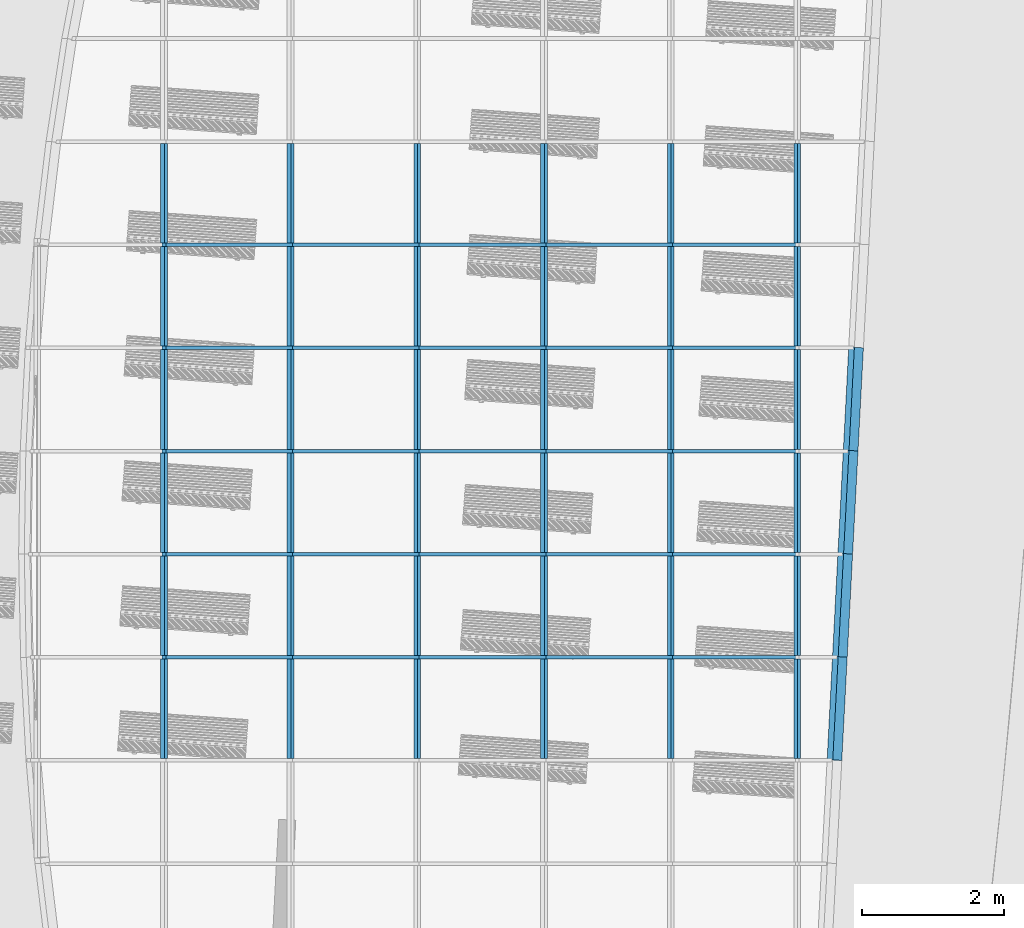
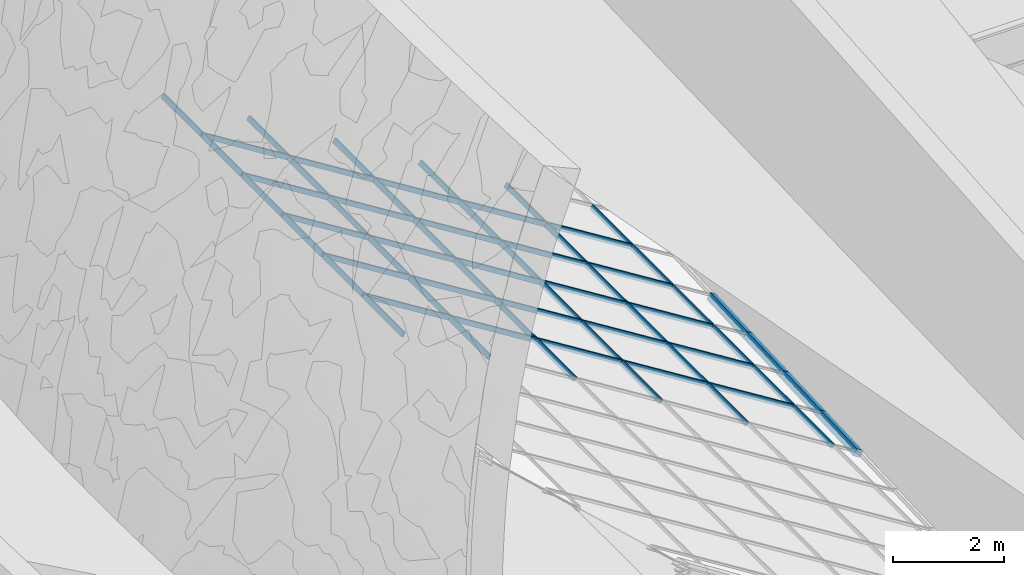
# One storey, part 13 of 82: 65 members, 1 element without a shape of its own.
"""IFC2X3 building model written with IfcOpenShell, lengths in millimetres."""

import ifcopenshell
import ifcopenshell.guid

model = None  # the IFC model being written
_history = None  # IfcOwnerHistory: only IFC2X3 demands one
_inside = {}  # id of a spatial element -> (the spatial element, [elements in it])
_under = {}  # id of a project, library or spatial element -> (it, [spatial elements below it])
_declared = {}  # id of a project -> (the project, [libraries it declares])
_typed = {}  # id of a type object -> (the type object, [elements of that type])
_made_of = {}  # id of a material, layer set ... -> (it, [elements and type objects made of it])


def new_model(schema):
    """Start an empty IFC model of exactly this schema.

    Asked for "IFC4X3", IfcOpenShell would pick the latest addendum, in which some entities
    have other attributes; the version numbers below select the first issue.
    IFC2X3 requires an IfcOwnerHistory on every rooted entity: one is made here for all.
    """
    global model, _history
    if schema == "IFC4X3":
        model = ifcopenshell.file(schema_version=(4, 3, 0, 0))
    else:
        model = ifcopenshell.file(schema=schema)
    _inside.clear()
    _under.clear()
    _declared.clear()
    _typed.clear()
    _made_of.clear()
    _history = None
    if model.schema == "IFC2X3":
        org = make("IfcOrganization", Name="unknown")
        user = make(
            "IfcPersonAndOrganization",
            ThePerson=make("IfcPerson", FamilyName="unknown"),
            TheOrganization=org,
        )
        app = make(
            "IfcApplication",
            ApplicationDeveloper=org,
            Version="unknown",
            ApplicationFullName="unknown",
            ApplicationIdentifier="unknown",
        )
        _history = make(
            "IfcOwnerHistory",
            OwningUser=user,
            OwningApplication=app,
            ChangeAction="ADDED",
            CreationDate=0,
        )
    return model


def make(cls, **values):
    """One entity of the class cls with the attributes given. An attribute that is None is left unset."""
    return model.create_entity(
        cls, **{name: value for name, value in values.items() if value is not None}
    )


def entity(cls, *values):
    """Any entity or typed value of the class cls, its attributes in the order of the schema. None: left unset."""
    e = model.create_entity(cls)
    for i, value in enumerate(values):
        if value is not None:
            e[i] = value
    return e


def rooted(cls, **values):
    """An entity with a GlobalId (a new one), such as an element, a storey or a relation."""
    return make(cls, GlobalId=ifcopenshell.guid.new(), OwnerHistory=_history, **values)


def si_unit(unit_type, name, prefix=None):
    """IfcSIUnit, for example si_unit("LENGTHUNIT", "METRE", prefix="MILLI")."""
    return make("IfcSIUnit", UnitType=unit_type, Prefix=prefix, Name=name)


def converted_unit(unit_type, name, factor, base, dimensions=None, offset=None):
    """IfcConversionBasedUnit, such as the inch: factor (a typed value) times the base unit."""
    return make(
        "IfcConversionBasedUnit"
        if offset is None
        else "IfcConversionBasedUnitWithOffset",
        ConversionOffset=offset,
        Dimensions=None
        if dimensions is None
        else entity("IfcDimensionalExponents", *dimensions),
        UnitType=unit_type,
        Name=name,
        ConversionFactor=make(
            "IfcMeasureWithUnit", ValueComponent=factor, UnitComponent=base
        ),
    )


def derived_unit(unit_type, elements):
    """IfcDerivedUnit: a product of units, each with its exponent."""
    return make(
        "IfcDerivedUnit",
        Elements=[
            make("IfcDerivedUnitElement", Unit=unit, Exponent=power)
            for unit, power in elements
        ],
        UnitType=unit_type,
    )


def assignment(units):
    """IfcUnitAssignment: the units of a project."""
    return None if units is None else make("IfcUnitAssignment", Units=units)


def point(xyz):
    """IfcCartesianPoint."""
    return None if xyz is None else make("IfcCartesianPoint", Coordinates=xyz)


def direction(xyz):
    """IfcDirection."""
    return None if xyz is None else make("IfcDirection", DirectionRatios=xyz)


def frame(location, z_axis=None, x_axis=None):
    """IfcAxis2Placement3D, a coordinate frame: its origin and axes. An axis left out is left unset."""
    return make(
        "IfcAxis2Placement3D",
        Location=point(location),
        Axis=direction(z_axis),
        RefDirection=direction(x_axis),
    )


def frame_2d(location, x_axis=None):
    """IfcAxis2Placement2D, a coordinate frame in the plane: its origin and x axis."""
    return make(
        "IfcAxis2Placement2D", Location=point(location), RefDirection=direction(x_axis)
    )


def origin():
    """The frame at (0, 0, 0) with its axes left unset."""
    return frame((0.0, 0.0, 0.0))


def origin_2d_with_axis():
    """The frame at (0, 0) in the plane with the x axis (1, 0) written out."""
    return frame_2d((0.0, 0.0), x_axis=(1.0, 0.0))


def place(relative_to, where):
    """IfcLocalPlacement: puts the frame where relative to a parent placement (None: the world)."""
    return make(
        "IfcLocalPlacement", PlacementRelTo=relative_to, RelativePlacement=where
    )


def context(
    kind, dimensions, precision=None, world=None, true_north=None, identifier=None
):
    """IfcGeometricRepresentationContext, for example the 3D "Model" context."""
    return make(
        "IfcGeometricRepresentationContext",
        ContextIdentifier=identifier,
        ContextType=kind,
        CoordinateSpaceDimension=dimensions,
        Precision=precision,
        WorldCoordinateSystem=world,
        TrueNorth=true_north,
    )


def subcontext(parent, identifier, kind, view, scale=None):
    """IfcGeometricRepresentationSubContext, for example "Body" below "Model"."""
    return make(
        "IfcGeometricRepresentationSubContext",
        ContextIdentifier=identifier,
        ContextType=kind,
        ParentContext=parent,
        TargetScale=scale,
        TargetView=view,
    )


def project(units=None, contexts=None):
    """IfcProject with its units and contexts."""
    return rooted(
        "IfcProject",
        Name="project",
        RepresentationContexts=contexts,
        UnitsInContext=assignment(units),
    )


def spatial(cls, under=None, at=None, **own):
    """A site, building, storey or space (cls), placed at a placement, below another one or the project."""
    s = rooted(cls, ObjectPlacement=at, **own)
    if under is not None:
        _under.setdefault(under.id(), (under, []))[1].append(s)
    return s


def profile(cls, at=None, kind="AREA", **sizes):
    """A parametric profile (cls). Its sizes go by their IFC names, for example OverallWidth=200.0."""
    return make(cls, ProfileType=kind, Position=at, **sizes)


def rectangle(**sizes):
    """IfcRectangleProfileDef."""
    return profile("IfcRectangleProfileDef", **sizes)


def extrude(swept, where, along, depth):
    """IfcExtrudedAreaSolid: the profile swept, set in the frame where, extruded along a direction by depth."""
    return make(
        "IfcExtrudedAreaSolid",
        SweptArea=swept,
        Position=where,
        ExtrudedDirection=direction(along),
        Depth=depth,
    )


def shape(context_of_items, identifier, shape_type, items):
    """IfcShapeRepresentation: the items that make up one representation, for example the "Body"."""
    return make(
        "IfcShapeRepresentation",
        ContextOfItems=context_of_items,
        RepresentationIdentifier=identifier,
        RepresentationType=shape_type,
        Items=items,
    )


def source(mapping_origin, context_of_items, identifier, shape_type, items):
    """IfcRepresentationMap: a shape defined once, which mapped items show again and again."""
    return make(
        "IfcRepresentationMap",
        MappingOrigin=mapping_origin,
        MappedRepresentation=shape(context_of_items, identifier, shape_type, items),
    )


def transform(
    local_origin,
    x_axis=None,
    y_axis=None,
    z_axis=None,
    scale=None,
    scale2=None,
    scale3=None,
    uniform=True,
):
    """IfcCartesianTransformationOperator3D, or its non-uniform kind. x_axis, y_axis, z_axis: its Axis1, 2, 3."""
    if uniform:
        return make(
            "IfcCartesianTransformationOperator3D",
            Axis1=direction(x_axis),
            Axis2=direction(y_axis),
            LocalOrigin=point(local_origin),
            Scale=scale,
            Axis3=direction(z_axis),
        )
    return make(
        "IfcCartesianTransformationOperator3DnonUniform",
        Axis1=direction(x_axis),
        Axis2=direction(y_axis),
        LocalOrigin=point(local_origin),
        Scale=scale,
        Axis3=direction(z_axis),
        Scale2=scale2,
        Scale3=scale3,
    )


def mapped(mapping_source, mapping_target):
    """IfcMappedItem: shows the shape of a source again, moved by a transform."""
    return make(
        "IfcMappedItem", MappingSource=mapping_source, MappingTarget=mapping_target
    )


def material(Name=None, Category=None):
    """IfcMaterial."""
    return make("IfcMaterial", Name=Name, Category=Category)


def made_of(thing, what):
    """Note that an element or type object is made of a material, layer set ...; save() writes the relation."""
    if what is not None:
        _made_of.setdefault(what.id(), (what, []))[1].append(thing)
    return thing


def type_object(cls, material=None, **own):
    """A type object (cls), such as IfcWallType, which elements share."""
    return made_of(rooted(cls, **own), material)


def type_shapes(of_type, sources):
    """Give a type object the sources (RepresentationMaps) that its elements show as mapped items."""
    of_type.RepresentationMaps = sources


def element(
    cls,
    number,
    at=None,
    inside=None,
    cuts=None,
    type_object=None,
    material=None,
    context=None,
    identifier="Body",
    shape_type=None,
    held_by="IfcProductDefinitionShape",
    body=None,
    shapes=None,
    **own,
):
    """One element of the class cls, such as IfcWall. Its Tag is "e" and its number.

    at: its placement. inside: the storey or other place that contains it. cuts: it is an
    opening in that element (IfcRelVoidsElement). A single representation is given by context,
    identifier, shape_type and body (its items); several are given by shapes. held_by: the class
    of the entity that holds the representations. save() writes the other relations.
    """
    e = rooted(cls, Tag="e%d" % number, ObjectPlacement=at, **own)
    if body is not None:
        shapes = [shape(context, identifier, shape_type, body)]
    if shapes is not None:
        e.Representation = make(held_by, Representations=shapes)
    if inside is not None:
        _inside.setdefault(inside.id(), (inside, []))[1].append(e)
    if cuts is not None:
        rooted(
            "IfcRelVoidsElement", RelatingBuildingElement=cuts, RelatedOpeningElement=e
        )
    if type_object is not None:
        _typed.setdefault(type_object.id(), (type_object, []))[1].append(e)
    return made_of(e, material)


def aggregate(whole, parts):
    """IfcRelAggregates: a whole, such as a stair, and the parts it consists of."""
    return rooted("IfcRelAggregates", RelatingObject=whole, RelatedObjects=parts)


def save(model, path):
    """Write the relations noted so far, then the file.

    IfcRelAggregates (storeys below a building ...), IfcRelContainedInSpatialStructure (elements
    in a storey), IfcRelDefinesByType, IfcRelAssociatesMaterial and IfcRelDeclares: one each for
    every whole, place, type object, material and project.
    """
    for whole, parts in _under.values():
        aggregate(whole, parts)
    for where, things in _inside.values():
        rooted(
            "IfcRelContainedInSpatialStructure",
            RelatedElements=things,
            RelatingStructure=where,
        )
    for kind, things in _typed.values():
        rooted("IfcRelDefinesByType", RelatedObjects=things, RelatingType=kind)
    for what, things in _made_of.values():
        rooted("IfcRelAssociatesMaterial", RelatedObjects=things, RelatingMaterial=what)
    for by, libraries in _declared.values():
        rooted("IfcRelDeclares", RelatingContext=by, RelatedDefinitions=libraries)
    model.write(path)


model = new_model("IFC2X3")

# Units and contexts
model_context = context("Model", 3, precision=0.01, world=origin(), true_north=direction((6.12303176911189e-17, 1.0)))
body_context = subcontext(model_context, "Body", "Model", "MODEL_VIEW")
ifc_project = project(units=[si_unit("LENGTHUNIT", "METRE", prefix="MILLI"), si_unit("AREAUNIT", "SQUARE_METRE"), si_unit("VOLUMEUNIT", "CUBIC_METRE"), converted_unit("PLANEANGLEUNIT", "DEGREE", entity("IfcRatioMeasure", 0.0174532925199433), si_unit("PLANEANGLEUNIT", "RADIAN"), dimensions=[0, 0, 0, 0, 0, 0, 0]), si_unit("MASSUNIT", "GRAM", prefix="KILO"), derived_unit("MASSDENSITYUNIT", [(si_unit("MASSUNIT", "GRAM", prefix="KILO"), 1), (si_unit("LENGTHUNIT", "METRE"), -3)]), si_unit("TIMEUNIT", "SECOND"), si_unit("FREQUENCYUNIT", "HERTZ"), si_unit("THERMODYNAMICTEMPERATUREUNIT", "DEGREE_CELSIUS"), derived_unit("THERMALTRANSMITTANCEUNIT", [(si_unit("MASSUNIT", "GRAM", prefix="KILO"), 1), (si_unit("THERMODYNAMICTEMPERATUREUNIT", "KELVIN"), -1), (si_unit("TIMEUNIT", "SECOND"), -3)]), derived_unit("VOLUMETRICFLOWRATEUNIT", [(si_unit("LENGTHUNIT", "METRE"), 3), (si_unit("TIMEUNIT", "SECOND"), -1)]), si_unit("ELECTRICCURRENTUNIT", "AMPERE"), si_unit("ELECTRICVOLTAGEUNIT", "VOLT"), si_unit("POWERUNIT", "WATT"), si_unit("FORCEUNIT", "NEWTON", prefix="KILO"), si_unit("ILLUMINANCEUNIT", "LUX"), si_unit("LUMINOUSFLUXUNIT", "LUMEN"), si_unit("LUMINOUSINTENSITYUNIT", "CANDELA"), derived_unit("USERDEFINED", [(si_unit("MASSUNIT", "GRAM", prefix="KILO"), -1), (si_unit("LENGTHUNIT", "METRE"), -2), (si_unit("TIMEUNIT", "SECOND"), 3), (si_unit("LUMINOUSFLUXUNIT", "LUMEN"), 1)]), derived_unit("LINEARVELOCITYUNIT", [(si_unit("LENGTHUNIT", "METRE"), 1), (si_unit("TIMEUNIT", "SECOND"), -1)]), si_unit("PRESSUREUNIT", "PASCAL"), derived_unit("USERDEFINED", [(si_unit("LENGTHUNIT", "METRE"), -2), (si_unit("MASSUNIT", "GRAM", prefix="KILO"), 1), (si_unit("TIMEUNIT", "SECOND"), -2)])], contexts=[model_context])

# Site, building, storey
site_placement = place(None, origin())
site = spatial("IfcSite", under=ifc_project, at=site_placement, Name="表面", CompositionType="ELEMENT")
building_placement = place(site_placement, origin())
building = spatial("IfcBuilding", under=site, at=building_placement, CompositionType="ELEMENT")
storey_placement = place(building_placement, origin())
storey = spatial("IfcBuildingStorey", under=building, at=storey_placement, Name="1F", CompositionType="ELEMENT", Elevation=0.0)

# Curtain wall, members
curtain_wall_type = type_object("IfcCurtainWallType", Name="幕墙系统:1450 x 2100mm", PredefinedType="NOTDEFINED")
curtain_wall_placement = place(storey_placement, origin())
curtain_wall = element("IfcCurtainWall", 1, at=curtain_wall_placement, inside=storey, type_object=curtain_wall_type, Name="幕墙系统:1450 x 2100mm", ObjectType="幕墙系统:1450 x 2100mm")
ifc_material_1 = material(Name="金属 - 铝")
member_type_1 = type_object("IfcMemberType", Name="50 x 100mm", PredefinedType="MEMBER")
shared_shape_1 = source(origin(), body_context, "Body", "SweptSolid", [
    extrude(rectangle(XDim=100.0, YDim=50.0, at=origin_2d_with_axis()), frame((0.0, 0.0, -1400.0), z_axis=(0.0, 0.0, 1.0), x_axis=(0.0, -1.0, 0.0)), (0.0, 0.0, 1.0), 1400.0),
])
type_shapes(member_type_1, [shared_shape_1])
placement = place(building_placement, frame((0.0, 0.0, 9000.0)))
member_1_placement = place(placement, frame((-19919.0996129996, -11963.9031535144, 3143.03179701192), z_axis=(0.0, 1.0, 0.0), x_axis=(-0.848048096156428, 0.0, 0.529919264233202)))
member_1 = element("IfcMember", 2, at=member_1_placement, type_object=member_type_1, material=ifc_material_1, Name="矩形竖梃:50 x 100mm", ObjectType="50 x 100mm", context=body_context, shape_type="MappedRepresentation", body=[
    mapped(shared_shape_1, transform((0.0, 0.0, 0.0), scale=1.0)),
])
member_2_placement = place(placement, frame((-19919.0996129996, -13413.9031535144, 3143.03179701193), z_axis=(0.0, 1.0, 0.0), x_axis=(-0.848048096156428, 0.0, 0.529919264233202)))
member_2 = element("IfcMember", 3, at=member_2_placement, type_object=member_type_1, material=ifc_material_1, Name="矩形竖梃:50 x 100mm", ObjectType="50 x 100mm", context=body_context, shape_type="MappedRepresentation", body=[
    mapped(shared_shape_1, transform((0.0, 0.0, 0.0), scale=1.0)),
])
member_3_placement = place(placement, frame((-19919.0996129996, -14863.9031535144, 3143.03179701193), z_axis=(0.0, 1.0, 0.0), x_axis=(-0.848048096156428, 0.0, 0.529919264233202)))
member_3 = element("IfcMember", 4, at=member_3_placement, type_object=member_type_1, material=ifc_material_1, Name="矩形竖梃:50 x 100mm", ObjectType="50 x 100mm", context=body_context, shape_type="MappedRepresentation", body=[
    mapped(shared_shape_1, transform((0.0, 0.0, 0.0), scale=1.0)),
])
member_4_placement = place(placement, frame((-19919.0996129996, -16313.9031535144, 3143.03179701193), z_axis=(0.0, 1.0, 0.0), x_axis=(-0.848048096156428, 0.0, 0.529919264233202)))
member_4 = element("IfcMember", 5, at=member_4_placement, type_object=member_type_1, material=ifc_material_1, Name="矩形竖梃:50 x 100mm", ObjectType="50 x 100mm", context=body_context, shape_type="MappedRepresentation", body=[
    mapped(shared_shape_1, transform((0.0, 0.0, 0.0), scale=1.0)),
])
member_5_placement = place(placement, frame((-19919.0996129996, -17763.9031535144, 3143.03179701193), z_axis=(0.0, 1.0, 0.0), x_axis=(-0.848048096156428, 0.0, 0.529919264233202)))
member_5 = element("IfcMember", 6, at=member_5_placement, type_object=member_type_1, material=ifc_material_1, Name="矩形竖梃:50 x 100mm", ObjectType="50 x 100mm", context=body_context, shape_type="MappedRepresentation", body=[
    mapped(shared_shape_1, transform((0.0, 0.0, 0.0), scale=1.0)),
])
member_6_placement = place(placement, frame((-19919.0996129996, -19213.9031535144, 3143.03179701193), z_axis=(0.0, 1.0, 0.0), x_axis=(-0.848048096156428, 0.0, 0.529919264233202)))
member_6 = element("IfcMember", 7, at=member_6_placement, type_object=member_type_1, material=ifc_material_1, Name="矩形竖梃:50 x 100mm", ObjectType="50 x 100mm", context=body_context, shape_type="MappedRepresentation", body=[
    mapped(shared_shape_1, transform((0.0, 0.0, 0.0), scale=1.0)),
])
member_7_placement = place(placement, frame((-21700.0006149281, -11963.9031535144, 4255.86225190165), z_axis=(0.0, 1.0, 0.0), x_axis=(-0.848048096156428, 0.0, 0.529919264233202)))
member_7 = element("IfcMember", 8, at=member_7_placement, type_object=member_type_1, material=ifc_material_1, Name="矩形竖梃:50 x 100mm", ObjectType="50 x 100mm", context=body_context, shape_type="MappedRepresentation", body=[
    mapped(shared_shape_1, transform((0.0, 0.0, 0.0), scale=1.0)),
])
member_8_placement = place(placement, frame((-21700.0006149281, -13413.9031535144, 4255.86225190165), z_axis=(0.0, 1.0, 0.0), x_axis=(-0.848048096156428, 0.0, 0.529919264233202)))
member_8 = element("IfcMember", 9, at=member_8_placement, type_object=member_type_1, material=ifc_material_1, Name="矩形竖梃:50 x 100mm", ObjectType="50 x 100mm", context=body_context, shape_type="MappedRepresentation", body=[
    mapped(shared_shape_1, transform((0.0, 0.0, 0.0), scale=1.0)),
])
member_9_placement = place(placement, frame((-21700.0006149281, -14863.9031535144, 4255.86225190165), z_axis=(0.0, 1.0, 0.0), x_axis=(-0.848048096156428, 0.0, 0.529919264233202)))
member_9 = element("IfcMember", 10, at=member_9_placement, type_object=member_type_1, material=ifc_material_1, Name="矩形竖梃:50 x 100mm", ObjectType="50 x 100mm", context=body_context, shape_type="MappedRepresentation", body=[
    mapped(shared_shape_1, transform((0.0, 0.0, 0.0), scale=1.0)),
])
member_10_placement = place(placement, frame((-21700.0006149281, -16313.9031535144, 4255.86225190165), z_axis=(0.0, 1.0, 0.0), x_axis=(-0.848048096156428, 0.0, 0.529919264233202)))
member_10 = element("IfcMember", 11, at=member_10_placement, type_object=member_type_1, material=ifc_material_1, Name="矩形竖梃:50 x 100mm", ObjectType="50 x 100mm", context=body_context, shape_type="MappedRepresentation", body=[
    mapped(shared_shape_1, transform((0.0, 0.0, 0.0), scale=1.0)),
])
member_11_placement = place(placement, frame((-21700.0006149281, -17763.9031535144, 4255.86225190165), z_axis=(0.0, 1.0, 0.0), x_axis=(-0.848048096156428, 0.0, 0.529919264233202)))
member_11 = element("IfcMember", 12, at=member_11_placement, type_object=member_type_1, material=ifc_material_1, Name="矩形竖梃:50 x 100mm", ObjectType="50 x 100mm", context=body_context, shape_type="MappedRepresentation", body=[
    mapped(shared_shape_1, transform((0.0, 0.0, 0.0), scale=1.0)),
])
member_12_placement = place(placement, frame((-21700.0006149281, -19213.9031535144, 4255.86225190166), z_axis=(0.0, 1.0, 0.0), x_axis=(-0.848048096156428, 0.0, 0.529919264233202)))
member_12 = element("IfcMember", 13, at=member_12_placement, type_object=member_type_1, material=ifc_material_1, Name="矩形竖梃:50 x 100mm", ObjectType="50 x 100mm", context=body_context, shape_type="MappedRepresentation", body=[
    mapped(shared_shape_1, transform((0.0, 0.0, 0.0), scale=1.0)),
])
member_13_placement = place(placement, frame((-23480.9016168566, -11963.9031535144, 5368.69270679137), z_axis=(0.0, 1.0, 0.0), x_axis=(-0.848048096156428, 0.0, 0.529919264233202)))
member_13 = element("IfcMember", 14, at=member_13_placement, type_object=member_type_1, material=ifc_material_1, Name="矩形竖梃:50 x 100mm", ObjectType="50 x 100mm", context=body_context, shape_type="MappedRepresentation", body=[
    mapped(shared_shape_1, transform((0.0, 0.0, 0.0), scale=1.0)),
])
member_14_placement = place(placement, frame((-23480.9016168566, -13413.9031535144, 5368.69270679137), z_axis=(0.0, 1.0, 0.0), x_axis=(-0.848048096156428, 0.0, 0.529919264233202)))
member_14 = element("IfcMember", 15, at=member_14_placement, type_object=member_type_1, material=ifc_material_1, Name="矩形竖梃:50 x 100mm", ObjectType="50 x 100mm", context=body_context, shape_type="MappedRepresentation", body=[
    mapped(shared_shape_1, transform((0.0, 0.0, 0.0), scale=1.0)),
])
member_15_placement = place(placement, frame((-23480.9016168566, -14863.9031535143, 5368.69270679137), z_axis=(0.0, 1.0, 0.0), x_axis=(-0.848048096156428, 0.0, 0.529919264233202)))
member_15 = element("IfcMember", 16, at=member_15_placement, type_object=member_type_1, material=ifc_material_1, Name="矩形竖梃:50 x 100mm", ObjectType="50 x 100mm", context=body_context, shape_type="MappedRepresentation", body=[
    mapped(shared_shape_1, transform((0.0, 0.0, 0.0), scale=1.0)),
])
member_16_placement = place(placement, frame((-23480.9016168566, -16313.9031535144, 5368.69270679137), z_axis=(0.0, 1.0, 0.0), x_axis=(-0.848048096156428, 0.0, 0.529919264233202)))
member_16 = element("IfcMember", 17, at=member_16_placement, type_object=member_type_1, material=ifc_material_1, Name="矩形竖梃:50 x 100mm", ObjectType="50 x 100mm", context=body_context, shape_type="MappedRepresentation", body=[
    mapped(shared_shape_1, transform((0.0, 0.0, 0.0), scale=1.0)),
])
member_17_placement = place(placement, frame((-23480.9016168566, -17763.9031535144, 5368.69270679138), z_axis=(0.0, 1.0, 0.0), x_axis=(-0.848048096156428, 0.0, 0.529919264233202)))
member_17 = element("IfcMember", 18, at=member_17_placement, type_object=member_type_1, material=ifc_material_1, Name="矩形竖梃:50 x 100mm", ObjectType="50 x 100mm", context=body_context, shape_type="MappedRepresentation", body=[
    mapped(shared_shape_1, transform((0.0, 0.0, 0.0), scale=1.0)),
])
member_18_placement = place(placement, frame((-23480.9016168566, -19213.9031535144, 5368.69270679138), z_axis=(0.0, 1.0, 0.0), x_axis=(-0.848048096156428, 0.0, 0.529919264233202)))
member_18 = element("IfcMember", 19, at=member_18_placement, type_object=member_type_1, material=ifc_material_1, Name="矩形竖梃:50 x 100mm", ObjectType="50 x 100mm", context=body_context, shape_type="MappedRepresentation", body=[
    mapped(shared_shape_1, transform((0.0, 0.0, 0.0), scale=1.0)),
])
member_19_placement = place(placement, frame((-25261.8026187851, -11963.9031535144, 6481.5231616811), z_axis=(0.0, 1.0, 0.0), x_axis=(-0.848048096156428, 0.0, 0.529919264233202)))
member_19 = element("IfcMember", 20, at=member_19_placement, type_object=member_type_1, material=ifc_material_1, Name="矩形竖梃:50 x 100mm", ObjectType="50 x 100mm", context=body_context, shape_type="MappedRepresentation", body=[
    mapped(shared_shape_1, transform((0.0, 0.0, 0.0), scale=1.0)),
])
member_20_placement = place(placement, frame((-25261.8026187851, -13413.9031535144, 6481.5231616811), z_axis=(0.0, 1.0, 0.0), x_axis=(-0.848048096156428, 0.0, 0.529919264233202)))
member_20 = element("IfcMember", 21, at=member_20_placement, type_object=member_type_1, material=ifc_material_1, Name="矩形竖梃:50 x 100mm", ObjectType="50 x 100mm", context=body_context, shape_type="MappedRepresentation", body=[
    mapped(shared_shape_1, transform((0.0, 0.0, 0.0), scale=1.0)),
])
member_21_placement = place(placement, frame((-25261.8026187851, -14863.9031535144, 6481.5231616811), z_axis=(0.0, 1.0, 0.0), x_axis=(-0.848048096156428, 0.0, 0.529919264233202)))
member_21 = element("IfcMember", 22, at=member_21_placement, type_object=member_type_1, material=ifc_material_1, Name="矩形竖梃:50 x 100mm", ObjectType="50 x 100mm", context=body_context, shape_type="MappedRepresentation", body=[
    mapped(shared_shape_1, transform((0.0, 0.0, 0.0), scale=1.0)),
])
member_22_placement = place(placement, frame((-25261.8026187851, -16313.9031535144, 6481.5231616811), z_axis=(0.0, 1.0, 0.0), x_axis=(-0.848048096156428, 0.0, 0.529919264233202)))
member_22 = element("IfcMember", 23, at=member_22_placement, type_object=member_type_1, material=ifc_material_1, Name="矩形竖梃:50 x 100mm", ObjectType="50 x 100mm", context=body_context, shape_type="MappedRepresentation", body=[
    mapped(shared_shape_1, transform((0.0, 0.0, 0.0), scale=1.0)),
])
member_23_placement = place(placement, frame((-25261.8026187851, -17763.9031535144, 6481.5231616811), z_axis=(0.0, 1.0, 0.0), x_axis=(-0.848048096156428, 0.0, 0.529919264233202)))
member_23 = element("IfcMember", 24, at=member_23_placement, type_object=member_type_1, material=ifc_material_1, Name="矩形竖梃:50 x 100mm", ObjectType="50 x 100mm", context=body_context, shape_type="MappedRepresentation", body=[
    mapped(shared_shape_1, transform((0.0, 0.0, 0.0), scale=1.0)),
])
member_24_placement = place(placement, frame((-25261.8026187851, -19213.9031535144, 6481.5231616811), z_axis=(0.0, 1.0, 0.0), x_axis=(-0.848048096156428, 0.0, 0.529919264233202)))
member_24 = element("IfcMember", 25, at=member_24_placement, type_object=member_type_1, material=ifc_material_1, Name="矩形竖梃:50 x 100mm", ObjectType="50 x 100mm", context=body_context, shape_type="MappedRepresentation", body=[
    mapped(shared_shape_1, transform((0.0, 0.0, 0.0), scale=1.0)),
])
member_25_placement = place(placement, frame((-27042.7036207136, -11963.9031535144, 7594.35361657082), z_axis=(0.0, 1.0, 0.0), x_axis=(-0.848048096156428, 0.0, 0.529919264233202)))
member_25 = element("IfcMember", 26, at=member_25_placement, type_object=member_type_1, material=ifc_material_1, Name="矩形竖梃:50 x 100mm", ObjectType="50 x 100mm", context=body_context, shape_type="MappedRepresentation", body=[
    mapped(shared_shape_1, transform((0.0, 0.0, 0.0), scale=1.0)),
])
member_26_placement = place(placement, frame((-27042.7036207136, -13413.9031535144, 7594.35361657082), z_axis=(0.0, 1.0, 0.0), x_axis=(-0.848048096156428, 0.0, 0.529919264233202)))
member_26 = element("IfcMember", 27, at=member_26_placement, type_object=member_type_1, material=ifc_material_1, Name="矩形竖梃:50 x 100mm", ObjectType="50 x 100mm", context=body_context, shape_type="MappedRepresentation", body=[
    mapped(shared_shape_1, transform((0.0, 0.0, 0.0), scale=1.0)),
])
member_27_placement = place(placement, frame((-27042.7036207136, -14863.9031535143, 7594.35361657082), z_axis=(0.0, 1.0, 0.0), x_axis=(-0.848048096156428, 0.0, 0.529919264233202)))
member_27 = element("IfcMember", 28, at=member_27_placement, type_object=member_type_1, material=ifc_material_1, Name="矩形竖梃:50 x 100mm", ObjectType="50 x 100mm", context=body_context, shape_type="MappedRepresentation", body=[
    mapped(shared_shape_1, transform((0.0, 0.0, 0.0), scale=1.0)),
])
member_28_placement = place(placement, frame((-27042.7036207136, -16313.9031535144, 7594.35361657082), z_axis=(0.0, 1.0, 0.0), x_axis=(-0.848048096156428, 0.0, 0.529919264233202)))
member_28 = element("IfcMember", 29, at=member_28_placement, type_object=member_type_1, material=ifc_material_1, Name="矩形竖梃:50 x 100mm", ObjectType="50 x 100mm", context=body_context, shape_type="MappedRepresentation", body=[
    mapped(shared_shape_1, transform((0.0, 0.0, 0.0), scale=1.0)),
])
member_29_placement = place(placement, frame((-27042.7036207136, -17763.9031535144, 7594.35361657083), z_axis=(0.0, 1.0, 0.0), x_axis=(-0.848048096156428, 0.0, 0.529919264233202)))
member_29 = element("IfcMember", 30, at=member_29_placement, type_object=member_type_1, material=ifc_material_1, Name="矩形竖梃:50 x 100mm", ObjectType="50 x 100mm", context=body_context, shape_type="MappedRepresentation", body=[
    mapped(shared_shape_1, transform((0.0, 0.0, 0.0), scale=1.0)),
])
member_30_placement = place(placement, frame((-27042.7036207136, -19213.9031535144, 7594.35361657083), z_axis=(0.0, 1.0, 0.0), x_axis=(-0.848048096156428, 0.0, 0.529919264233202)))
member_30 = element("IfcMember", 31, at=member_30_placement, type_object=member_type_1, material=ifc_material_1, Name="矩形竖梃:50 x 100mm", ObjectType="50 x 100mm", context=body_context, shape_type="MappedRepresentation", body=[
    mapped(shared_shape_1, transform((0.0, 0.0, 0.0), scale=1.0)),
])
member_31_placement = place(placement, frame((-28823.6046226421, -11963.9031535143, 8707.18407146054), z_axis=(0.0, 1.0, 0.0), x_axis=(-0.848048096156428, 0.0, 0.529919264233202)))
member_31 = element("IfcMember", 32, at=member_31_placement, type_object=member_type_1, material=ifc_material_1, Name="矩形竖梃:50 x 100mm", ObjectType="50 x 100mm", context=body_context, shape_type="MappedRepresentation", body=[
    mapped(shared_shape_1, transform((0.0, 0.0, 0.0), scale=1.0)),
])
member_32_placement = place(placement, frame((-28823.6046226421, -13413.9031535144, 8707.18407146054), z_axis=(0.0, 1.0, 0.0), x_axis=(-0.848048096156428, 0.0, 0.529919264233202)))
member_32 = element("IfcMember", 33, at=member_32_placement, type_object=member_type_1, material=ifc_material_1, Name="矩形竖梃:50 x 100mm", ObjectType="50 x 100mm", context=body_context, shape_type="MappedRepresentation", body=[
    mapped(shared_shape_1, transform((0.0, 0.0, 0.0), scale=1.0)),
])
member_33_placement = place(placement, frame((-28823.6046226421, -14863.9031535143, 8707.18407146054), z_axis=(0.0, 1.0, 0.0), x_axis=(-0.848048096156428, 0.0, 0.529919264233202)))
member_33 = element("IfcMember", 34, at=member_33_placement, type_object=member_type_1, material=ifc_material_1, Name="矩形竖梃:50 x 100mm", ObjectType="50 x 100mm", context=body_context, shape_type="MappedRepresentation", body=[
    mapped(shared_shape_1, transform((0.0, 0.0, 0.0), scale=1.0)),
])
member_34_placement = place(placement, frame((-28823.6046226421, -16313.9031535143, 8707.18407146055), z_axis=(0.0, 1.0, 0.0), x_axis=(-0.848048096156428, 0.0, 0.529919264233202)))
member_34 = element("IfcMember", 35, at=member_34_placement, type_object=member_type_1, material=ifc_material_1, Name="矩形竖梃:50 x 100mm", ObjectType="50 x 100mm", context=body_context, shape_type="MappedRepresentation", body=[
    mapped(shared_shape_1, transform((0.0, 0.0, 0.0), scale=1.0)),
])
member_35_placement = place(placement, frame((-28823.6046226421, -17763.9031535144, 8707.18407146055), z_axis=(0.0, 1.0, 0.0), x_axis=(-0.848048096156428, 0.0, 0.529919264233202)))
member_35 = element("IfcMember", 36, at=member_35_placement, type_object=member_type_1, material=ifc_material_1, Name="矩形竖梃:50 x 100mm", ObjectType="50 x 100mm", context=body_context, shape_type="MappedRepresentation", body=[
    mapped(shared_shape_1, transform((0.0, 0.0, 0.0), scale=1.0)),
])
member_36_placement = place(placement, frame((-28823.6046226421, -19213.9031535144, 8707.18407146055), z_axis=(0.0, 1.0, 0.0), x_axis=(-0.848048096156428, 0.0, 0.529919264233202)))
member_36 = element("IfcMember", 37, at=member_36_placement, type_object=member_type_1, material=ifc_material_1, Name="矩形竖梃:50 x 100mm", ObjectType="50 x 100mm", context=body_context, shape_type="MappedRepresentation", body=[
    mapped(shared_shape_1, transform((0.0, 0.0, 0.0), scale=1.0)),
])
member_type_2 = type_object("IfcMemberType", Name="50 x 100mm", PredefinedType="MEMBER")
shared_shape_2 = source(origin(), body_context, "Body", "SweptSolid", [
    extrude(rectangle(XDim=100.0, YDim=50.0, at=origin_2d_with_axis()), frame((0.0, 0.0, -2100.0), z_axis=(0.0, 0.0, 1.0), x_axis=(0.0, -1.0, 0.0)), (0.0, 0.0, 1.0), 2100.0),
])
type_shapes(member_type_2, [shared_shape_2])
member_37_placement = place(placement, frame((-21700.0006149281, -13388.9031535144, 4255.86225190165), z_axis=(-0.848048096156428, 0.0, 0.529919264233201), x_axis=(0.0, -1.0, 0.0)))
member_37 = element("IfcMember", 38, at=member_37_placement, type_object=member_type_2, material=ifc_material_1, Name="矩形竖梃:50 x 100mm", ObjectType="50 x 100mm", context=body_context, shape_type="MappedRepresentation", body=[
    mapped(shared_shape_2, transform((0.0, 0.0, 0.0), scale=1.0)),
])
member_38_placement = place(placement, frame((-21700.0006149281, -14838.9031535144, 4255.86225190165), z_axis=(-0.848048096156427, 0.0, 0.529919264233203), x_axis=(0.0, -1.0, 0.0)))
member_38 = element("IfcMember", 39, at=member_38_placement, type_object=member_type_2, material=ifc_material_1, Name="矩形竖梃:50 x 100mm", ObjectType="50 x 100mm", context=body_context, shape_type="MappedRepresentation", body=[
    mapped(shared_shape_2, transform((0.0, 0.0, 0.0), scale=1.0)),
])
member_39_placement = place(placement, frame((-21700.0006149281, -16288.9031535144, 4255.86225190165), z_axis=(-0.848048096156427, 0.0, 0.529919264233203), x_axis=(0.0, -1.0, 0.0)))
member_39 = element("IfcMember", 40, at=member_39_placement, type_object=member_type_2, material=ifc_material_1, Name="矩形竖梃:50 x 100mm", ObjectType="50 x 100mm", context=body_context, shape_type="MappedRepresentation", body=[
    mapped(shared_shape_2, transform((0.0, 0.0, 0.0), scale=1.0)),
])
member_40_placement = place(placement, frame((-21700.0006149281, -17738.9031535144, 4255.86225190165), z_axis=(-0.848048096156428, 0.0, 0.529919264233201), x_axis=(0.0, -1.0, 0.0)))
member_40 = element("IfcMember", 41, at=member_40_placement, type_object=member_type_2, material=ifc_material_1, Name="矩形竖梃:50 x 100mm", ObjectType="50 x 100mm", context=body_context, shape_type="MappedRepresentation", body=[
    mapped(shared_shape_2, transform((0.0, 0.0, 0.0), scale=1.0)),
])
member_41_placement = place(placement, frame((-21700.0006149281, -19188.9031535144, 4255.86225190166), z_axis=(-0.848048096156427, 0.0, 0.529919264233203), x_axis=(0.0, -1.0, 0.0)))
member_41 = element("IfcMember", 42, at=member_41_placement, type_object=member_type_2, material=ifc_material_1, Name="矩形竖梃:50 x 100mm", ObjectType="50 x 100mm", context=body_context, shape_type="MappedRepresentation", body=[
    mapped(shared_shape_2, transform((0.0, 0.0, 0.0), scale=1.0)),
])
member_42_placement = place(placement, frame((-23480.9016168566, -13388.9031535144, 5368.69270679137), z_axis=(-0.848048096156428, 0.0, 0.529919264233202), x_axis=(0.0, -1.0, 0.0)))
member_42 = element("IfcMember", 43, at=member_42_placement, type_object=member_type_2, material=ifc_material_1, Name="矩形竖梃:50 x 100mm", ObjectType="50 x 100mm", context=body_context, shape_type="MappedRepresentation", body=[
    mapped(shared_shape_2, transform((0.0, 0.0, 0.0), scale=1.0)),
])
member_43_placement = place(placement, frame((-23480.9016168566, -14838.9031535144, 5368.69270679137), z_axis=(-0.848048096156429, 0.0, 0.529919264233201), x_axis=(0.0, -1.0, 0.0)))
member_43 = element("IfcMember", 44, at=member_43_placement, type_object=member_type_2, material=ifc_material_1, Name="矩形竖梃:50 x 100mm", ObjectType="50 x 100mm", context=body_context, shape_type="MappedRepresentation", body=[
    mapped(shared_shape_2, transform((0.0, 0.0, 0.0), scale=1.0)),
])
member_44_placement = place(placement, frame((-23480.9016168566, -16288.9031535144, 5368.69270679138), z_axis=(-0.848048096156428, 0.0, 0.529919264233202), x_axis=(0.0, -1.0, 0.0)))
member_44 = element("IfcMember", 45, at=member_44_placement, type_object=member_type_2, material=ifc_material_1, Name="矩形竖梃:50 x 100mm", ObjectType="50 x 100mm", context=body_context, shape_type="MappedRepresentation", body=[
    mapped(shared_shape_2, transform((0.0, 0.0, 0.0), scale=1.0)),
])
member_45_placement = place(placement, frame((-23480.9016168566, -17738.9031535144, 5368.69270679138), z_axis=(-0.848048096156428, 0.0, 0.529919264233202), x_axis=(0.0, -1.0, 0.0)))
member_45 = element("IfcMember", 46, at=member_45_placement, type_object=member_type_2, material=ifc_material_1, Name="矩形竖梃:50 x 100mm", ObjectType="50 x 100mm", context=body_context, shape_type="MappedRepresentation", body=[
    mapped(shared_shape_2, transform((0.0, 0.0, 0.0), scale=1.0)),
])
member_46_placement = place(placement, frame((-23480.9016168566, -19188.9031535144, 5368.69270679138), z_axis=(-0.848048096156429, 0.0, 0.529919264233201), x_axis=(0.0, -1.0, 0.0)))
member_46 = element("IfcMember", 47, at=member_46_placement, type_object=member_type_2, material=ifc_material_1, Name="矩形竖梃:50 x 100mm", ObjectType="50 x 100mm", context=body_context, shape_type="MappedRepresentation", body=[
    mapped(shared_shape_2, transform((0.0, 0.0, 0.0), scale=1.0)),
])
member_47_placement = place(placement, frame((-25261.8026187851, -13388.9031535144, 6481.5231616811), z_axis=(-0.848048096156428, 0.0, 0.529919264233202), x_axis=(0.0, -1.0, 0.0)))
member_47 = element("IfcMember", 48, at=member_47_placement, type_object=member_type_2, material=ifc_material_1, Name="矩形竖梃:50 x 100mm", ObjectType="50 x 100mm", context=body_context, shape_type="MappedRepresentation", body=[
    mapped(shared_shape_2, transform((0.0, 0.0, 0.0), scale=1.0)),
])
member_48_placement = place(placement, frame((-25261.8026187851, -14838.9031535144, 6481.5231616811), z_axis=(-0.848048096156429, 0.0, 0.529919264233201), x_axis=(0.0, -1.0, 0.0)))
member_48 = element("IfcMember", 49, at=member_48_placement, type_object=member_type_2, material=ifc_material_1, Name="矩形竖梃:50 x 100mm", ObjectType="50 x 100mm", context=body_context, shape_type="MappedRepresentation", body=[
    mapped(shared_shape_2, transform((0.0, 0.0, 0.0), scale=1.0)),
])
member_49_placement = place(placement, frame((-25261.8026187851, -16288.9031535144, 6481.5231616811), z_axis=(-0.848048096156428, 0.0, 0.529919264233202), x_axis=(0.0, -1.0, 0.0)))
member_49 = element("IfcMember", 50, at=member_49_placement, type_object=member_type_2, material=ifc_material_1, Name="矩形竖梃:50 x 100mm", ObjectType="50 x 100mm", context=body_context, shape_type="MappedRepresentation", body=[
    mapped(shared_shape_2, transform((0.0, 0.0, 0.0), scale=1.0)),
])
member_50_placement = place(placement, frame((-25261.8026187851, -17738.9031535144, 6481.5231616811), z_axis=(-0.848048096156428, 0.0, 0.529919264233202), x_axis=(0.0, -1.0, 0.0)))
member_50 = element("IfcMember", 51, at=member_50_placement, type_object=member_type_2, material=ifc_material_1, Name="矩形竖梃:50 x 100mm", ObjectType="50 x 100mm", context=body_context, shape_type="MappedRepresentation", body=[
    mapped(shared_shape_2, transform((0.0, 0.0, 0.0), scale=1.0)),
])
member_51_placement = place(placement, frame((-25261.8026187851, -19188.9031535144, 6481.5231616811), z_axis=(-0.848048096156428, 0.0, 0.529919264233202), x_axis=(0.0, -1.0, 0.0)))
member_51 = element("IfcMember", 52, at=member_51_placement, type_object=member_type_2, material=ifc_material_1, Name="矩形竖梃:50 x 100mm", ObjectType="50 x 100mm", context=body_context, shape_type="MappedRepresentation", body=[
    mapped(shared_shape_2, transform((0.0, 0.0, 0.0), scale=1.0)),
])
member_52_placement = place(placement, frame((-27042.7036207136, -13388.9031535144, 7594.35361657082), z_axis=(-0.848048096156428, 0.0, 0.529919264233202), x_axis=(0.0, -1.0, 0.0)))
member_52 = element("IfcMember", 53, at=member_52_placement, type_object=member_type_2, material=ifc_material_1, Name="矩形竖梃:50 x 100mm", ObjectType="50 x 100mm", context=body_context, shape_type="MappedRepresentation", body=[
    mapped(shared_shape_2, transform((0.0, 0.0, 0.0), scale=1.0)),
])
member_53_placement = place(placement, frame((-27042.7036207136, -14838.9031535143, 7594.35361657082), z_axis=(-0.848048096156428, 0.0, 0.529919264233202), x_axis=(0.0, -1.0, 0.0)))
member_53 = element("IfcMember", 54, at=member_53_placement, type_object=member_type_2, material=ifc_material_1, Name="矩形竖梃:50 x 100mm", ObjectType="50 x 100mm", context=body_context, shape_type="MappedRepresentation", body=[
    mapped(shared_shape_2, transform((0.0, 0.0, 0.0), scale=1.0)),
])
member_54_placement = place(placement, frame((-27042.7036207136, -16288.9031535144, 7594.35361657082), z_axis=(-0.848048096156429, 0.0, 0.529919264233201), x_axis=(0.0, -1.0, 0.0)))
member_54 = element("IfcMember", 55, at=member_54_placement, type_object=member_type_2, material=ifc_material_1, Name="矩形竖梃:50 x 100mm", ObjectType="50 x 100mm", context=body_context, shape_type="MappedRepresentation", body=[
    mapped(shared_shape_2, transform((0.0, 0.0, 0.0), scale=1.0)),
])
member_55_placement = place(placement, frame((-27042.7036207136, -17738.9031535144, 7594.35361657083), z_axis=(-0.848048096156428, 0.0, 0.529919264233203), x_axis=(0.0, -1.0, 0.0)))
member_55 = element("IfcMember", 56, at=member_55_placement, type_object=member_type_2, material=ifc_material_1, Name="矩形竖梃:50 x 100mm", ObjectType="50 x 100mm", context=body_context, shape_type="MappedRepresentation", body=[
    mapped(shared_shape_2, transform((0.0, 0.0, 0.0), scale=1.0)),
])
member_56_placement = place(placement, frame((-27042.7036207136, -19188.9031535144, 7594.35361657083), z_axis=(-0.848048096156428, 0.0, 0.529919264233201), x_axis=(0.0, -1.0, 0.0)))
member_56 = element("IfcMember", 57, at=member_56_placement, type_object=member_type_2, material=ifc_material_1, Name="矩形竖梃:50 x 100mm", ObjectType="50 x 100mm", context=body_context, shape_type="MappedRepresentation", body=[
    mapped(shared_shape_2, transform((0.0, 0.0, 0.0), scale=1.0)),
])
member_57_placement = place(placement, frame((-28823.6046226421, -13388.9031535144, 8707.18407146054), z_axis=(-0.848048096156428, 0.0, 0.529919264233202), x_axis=(0.0, -1.0, 0.0)))
member_57 = element("IfcMember", 58, at=member_57_placement, type_object=member_type_2, material=ifc_material_1, Name="矩形竖梃:50 x 100mm", ObjectType="50 x 100mm", context=body_context, shape_type="MappedRepresentation", body=[
    mapped(shared_shape_2, transform((0.0, 0.0, 0.0), scale=1.0)),
])
member_58_placement = place(placement, frame((-28823.6046226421, -14838.9031535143, 8707.18407146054), z_axis=(-0.848048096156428, 0.0, 0.529919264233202), x_axis=(0.0, -1.0, 0.0)))
member_58 = element("IfcMember", 59, at=member_58_placement, type_object=member_type_2, material=ifc_material_1, Name="矩形竖梃:50 x 100mm", ObjectType="50 x 100mm", context=body_context, shape_type="MappedRepresentation", body=[
    mapped(shared_shape_2, transform((0.0, 0.0, 0.0), scale=1.0)),
])
member_59_placement = place(placement, frame((-28823.6046226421, -16288.9031535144, 8707.18407146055), z_axis=(-0.848048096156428, 0.0, 0.529919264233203), x_axis=(0.0, -1.0, 0.0)))
member_59 = element("IfcMember", 60, at=member_59_placement, type_object=member_type_2, material=ifc_material_1, Name="矩形竖梃:50 x 100mm", ObjectType="50 x 100mm", context=body_context, shape_type="MappedRepresentation", body=[
    mapped(shared_shape_2, transform((0.0, 0.0, 0.0), scale=1.0)),
])
member_60_placement = place(placement, frame((-28823.6046226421, -17738.9031535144, 8707.18407146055), z_axis=(-0.848048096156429, 0.0, 0.529919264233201), x_axis=(0.0, -1.0, 0.0)))
member_60 = element("IfcMember", 61, at=member_60_placement, type_object=member_type_2, material=ifc_material_1, Name="矩形竖梃:50 x 100mm", ObjectType="50 x 100mm", context=body_context, shape_type="MappedRepresentation", body=[
    mapped(shared_shape_2, transform((0.0, 0.0, 0.0), scale=1.0)),
])
member_61_placement = place(placement, frame((-28823.6046226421, -19188.9031535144, 8707.18407146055), z_axis=(-0.848048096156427, 0.0, 0.529919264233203), x_axis=(0.0, -1.0, 0.0)))
member_61 = element("IfcMember", 62, at=member_61_placement, type_object=member_type_2, material=ifc_material_1, Name="矩形竖梃:50 x 100mm", ObjectType="50 x 100mm", context=body_context, shape_type="MappedRepresentation", body=[
    mapped(shared_shape_2, transform((0.0, 0.0, 0.0), scale=1.0)),
])
ifc_material_2 = material(Name="木质 - 木材")
member_type_3 = type_object("IfcMemberType", Name="200 x 150mm", PredefinedType="MEMBER")
shared_shape_3 = source(origin(), body_context, "Body", "SweptSolid", [
    extrude(rectangle(XDim=150.0, YDim=150.0, at=frame_2d((2.8421709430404e-14, 0.0), x_axis=(1.0, 0.0))), frame((-75.0, 0.0, -1452.76614220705), z_axis=(0.0, 0.0, 1.0), x_axis=(0.0, -1.0, 0.0)), (0.0, 0.0, 1.0), 1452.76614220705),
])
type_shapes(member_type_3, [shared_shape_3])
member_62_placement = place(placement, frame((-19105.5887153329, -16288.9031535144, 2634.69376961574), z_axis=(-0.0523079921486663, -0.998095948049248, 0.0326856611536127), x_axis=(0.846433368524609, -0.06168045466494, -0.528910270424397)))
member_62 = element("IfcMember", 63, at=member_62_placement, type_object=member_type_3, material=ifc_material_2, Name="矩形竖梃:200 x 150mm", ObjectType="200 x 150mm", context=body_context, shape_type="MappedRepresentation", body=[
    mapped(shared_shape_3, transform((0.0, 0.0, 0.0), scale=1.0)),
])
member_63_placement = place(placement, frame((-19181.5799952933, -17738.9031535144, 2682.17839147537), z_axis=(-0.0523079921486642, -0.998095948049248, 0.0326856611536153), x_axis=(0.846433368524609, -0.0616804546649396, -0.528910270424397)))
member_63 = element("IfcMember", 64, at=member_63_placement, type_object=member_type_3, material=ifc_material_2, Name="矩形竖梃:200 x 150mm", ObjectType="200 x 150mm", context=body_context, shape_type="MappedRepresentation", body=[
    mapped(shared_shape_3, transform((0.0, 0.0, 0.0), scale=1.0)),
])
member_64_placement = place(placement, frame((-19257.5712752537, -19188.9031535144, 2729.66301333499), z_axis=(-0.0523079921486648, -0.998095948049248, 0.0326856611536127), x_axis=(0.846433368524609, -0.0616804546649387, -0.528910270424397)))
member_64 = element("IfcMember", 65, at=member_64_placement, type_object=member_type_3, material=ifc_material_2, Name="矩形竖梃:200 x 150mm", ObjectType="200 x 150mm", context=body_context, shape_type="MappedRepresentation", body=[
    mapped(shared_shape_3, transform((0.0, 0.0, 0.0), scale=1.0)),
])
member_65_placement = place(placement, frame((-19333.5625552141, -20638.9031535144, 2777.14763519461), z_axis=(-0.0523079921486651, -0.998095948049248, 0.0326856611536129), x_axis=(0.846433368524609, -0.0616804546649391, -0.528910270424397)))
member_65 = element("IfcMember", 66, at=member_65_placement, type_object=member_type_3, material=ifc_material_2, Name="矩形竖梃:200 x 150mm", ObjectType="200 x 150mm", context=body_context, shape_type="MappedRepresentation", body=[
    mapped(shared_shape_3, transform((0.0, 0.0, 0.0), scale=1.0)),
])
aggregate(curtain_wall, [member_62, member_63, member_64, member_65, member_1, member_2, member_3, member_4, member_5, member_6, member_7, member_8, member_9, member_10, member_11, member_12, member_13, member_14, member_15, member_16, member_17, member_18, member_19, member_20, member_21, member_22, member_23, member_24, member_25, member_26, member_27, member_28, member_29, member_30, member_31, member_32, member_33, member_34, member_35, member_36, member_37, member_38, member_39, member_40, member_41, member_42, member_43, member_44, member_45, member_46, member_47, member_48, member_49, member_50, member_51, member_52, member_53, member_54, member_55, member_56, member_57, member_58, member_59, member_60, member_61])

save(model, "model.ifc")
